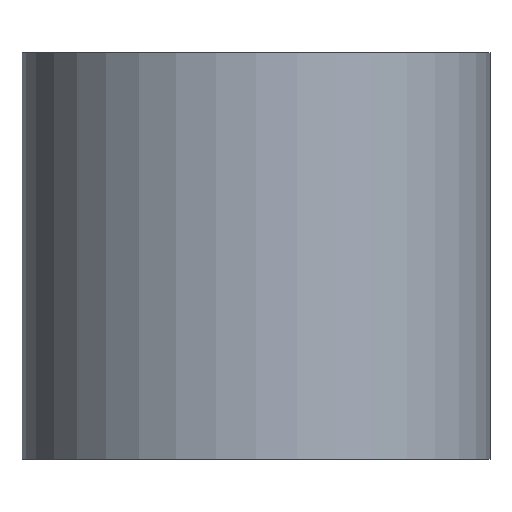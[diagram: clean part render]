
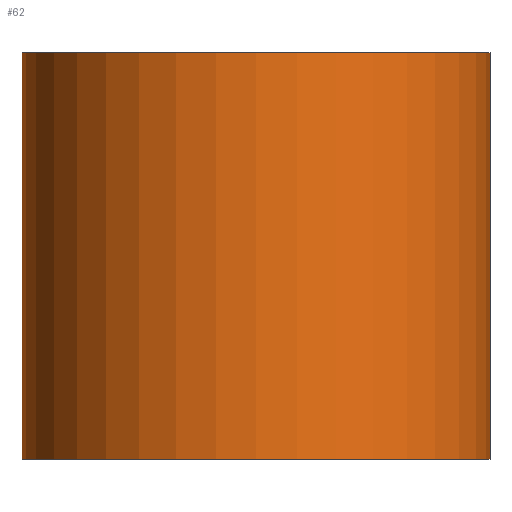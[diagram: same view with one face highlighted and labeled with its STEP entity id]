
A CAD part, front view. The second image highlights one B-rep face of the part: STEP entity #62.
In plain terms, the highlighted cylindrical face has radius 5.75 mm (diameter 11.5 mm), a partial arc.
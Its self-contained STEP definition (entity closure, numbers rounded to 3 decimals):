
#62=ADVANCED_FACE('',(#138),#140,.T.);
#138=FACE_BOUND('',#139,.T.);
#139=EDGE_LOOP('',(#207,#208,#209,#210));
#140=CYLINDRICAL_SURFACE('',#141,5.75);
#141=AXIS2_PLACEMENT_3D('',#142,#143,#144);
#142=CARTESIAN_POINT('',(0.,0.,0.));
#143=DIRECTION('',(0.,0.,1.));
#144=DIRECTION('',(-0.346,0.938,0.));
#207=ORIENTED_EDGE('',*,*,#244,.T.);
#208=ORIENTED_EDGE('',*,*,#229,.T.);
#209=ORIENTED_EDGE('',*,*,#241,.F.);
#210=ORIENTED_EDGE('',*,*,#224,.F.);
#224=EDGE_CURVE('',#258,#260,#261,.T.);
#229=EDGE_CURVE('',#270,#268,#271,.T.);
#241=EDGE_CURVE('',#260,#268,#289,.T.);
#244=EDGE_CURVE('',#258,#270,#292,.T.);
#258=VERTEX_POINT('',#439);
#260=VERTEX_POINT('',#443);
#261=LINE('',#444,#445);
#268=VERTEX_POINT('',#461);
#270=VERTEX_POINT('',#465);
#271=LINE('',#466,#467);
#289=CIRCLE('',#518,5.75);
#292=CIRCLE('',#529,5.75);
#439=CARTESIAN_POINT('',(-1.99,5.395,0.));
#443=CARTESIAN_POINT('',(-1.99,5.395,10.));
#444=CARTESIAN_POINT('',(-1.99,5.395,0.));
#445=VECTOR('',#446,1.);
#446=DIRECTION('',(0.,0.,1.));
#461=CARTESIAN_POINT('',(5.75,0.,10.));
#465=CARTESIAN_POINT('',(5.75,0.,0.));
#466=CARTESIAN_POINT('',(5.75,0.,0.));
#467=VECTOR('',#468,1.);
#468=DIRECTION('',(0.,0.,1.));
#518=AXIS2_PLACEMENT_3D('',#519,#520,#521);
#519=CARTESIAN_POINT('',(0.,0.,10.));
#520=DIRECTION('',(0.,0.,1.));
#521=DIRECTION('',(-0.346,0.938,0.));
#529=AXIS2_PLACEMENT_3D('',#530,#531,#532);
#530=CARTESIAN_POINT('',(0.,0.,0.));
#531=DIRECTION('',(0.,0.,1.));
#532=DIRECTION('',(-0.346,0.938,0.));
